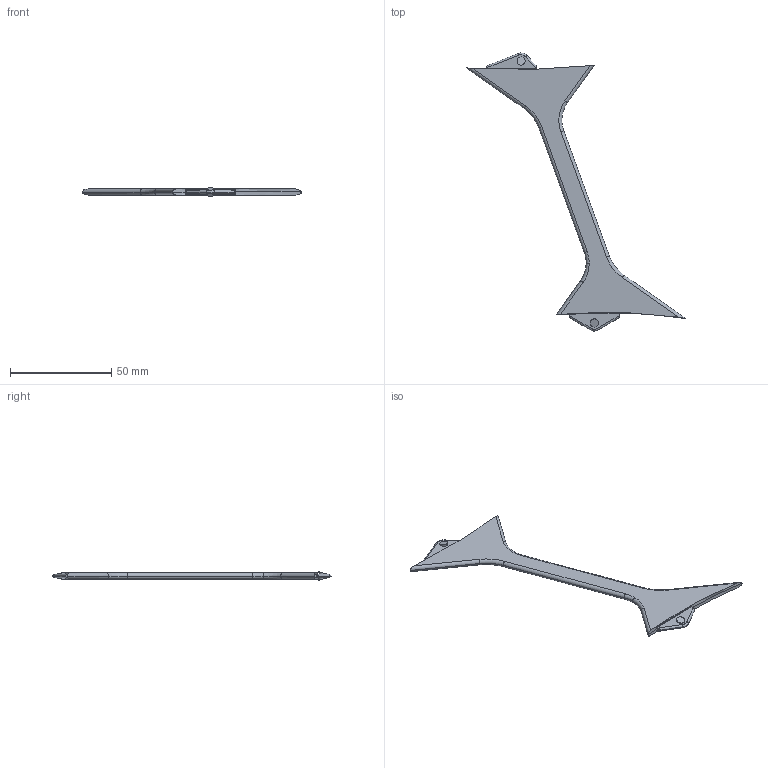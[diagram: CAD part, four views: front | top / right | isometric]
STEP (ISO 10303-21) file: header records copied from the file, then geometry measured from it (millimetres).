
FILE_DESCRIPTION (( 'STEP AP203' ), '1' );
FILE_NAME ('06-12-08-00 Interplane strut.STEP', '2019-02-25T09:19:01', ( '' ), ( '' ), 'SwSTEP 2.0', 'SolidWorks 2014', '' );
FILE_SCHEMA (( 'CONFIG_CONTROL_DESIGN' ));
Length unit declared in the file: millimetre
Products named in the file (1): 06-12-08-00 Interplane strut
Bounding box: 108.02 x 137.21 x 4.2 mm (x, y, z)
Volume: 7928.5 mm3; surface area: 6603.6 mm2
Topology: 1 solids, 1 shells, 85 faces, 209 edges, 132 vertices
Faces by surface type: cylinder 38, plane 22, torus 14, bspline 11
Entity records: 2989 total; most frequent: CARTESIAN_POINT 1067, ORIENTED_EDGE 418, DIRECTION 348, EDGE_CURVE 209, AXIS2_PLACEMENT_3D 138, VERTEX_POINT 132, EDGE_LOOP 91, ADVANCED_FACE 85
